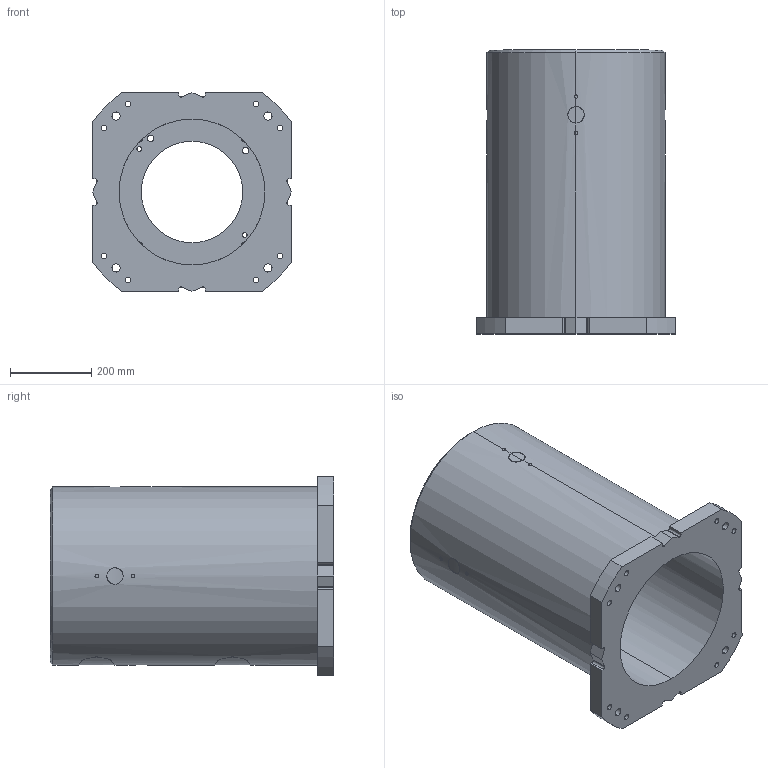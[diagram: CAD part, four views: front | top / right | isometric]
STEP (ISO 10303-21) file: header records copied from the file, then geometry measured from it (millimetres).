
FILE_DESCRIPTION (( 'STEP AP214' ), '1' );
FILE_NAME ('H-700.STEP', '2025-12-08T06:21:22', ( '' ), ( '' ), 'SwSTEP 2.0', 'SolidWorks 2022', '' );
FILE_SCHEMA (( 'AUTOMOTIVE_DESIGN' ));
Length unit declared in the file: millimetre
Products named in the file (1): H-700
Bounding box: 490 x 700 x 490 mm (x, y, z)
Volume: 40011104 mm3; surface area: 2153459.4 mm2
Topology: 1 solids, 1 shells, 175 faces, 485 edges, 320 vertices
Faces by surface type: cylinder 117, plane 32, bspline 24, cone 2
Entity records: 11418 total; most frequent: CARTESIAN_POINT 6447, ORIENTED_EDGE 970, DIRECTION 785, EDGE_CURVE 485, VERTEX_POINT 320, AXIS2_PLACEMENT_3D 302, EDGE_LOOP 225, LINE 181
